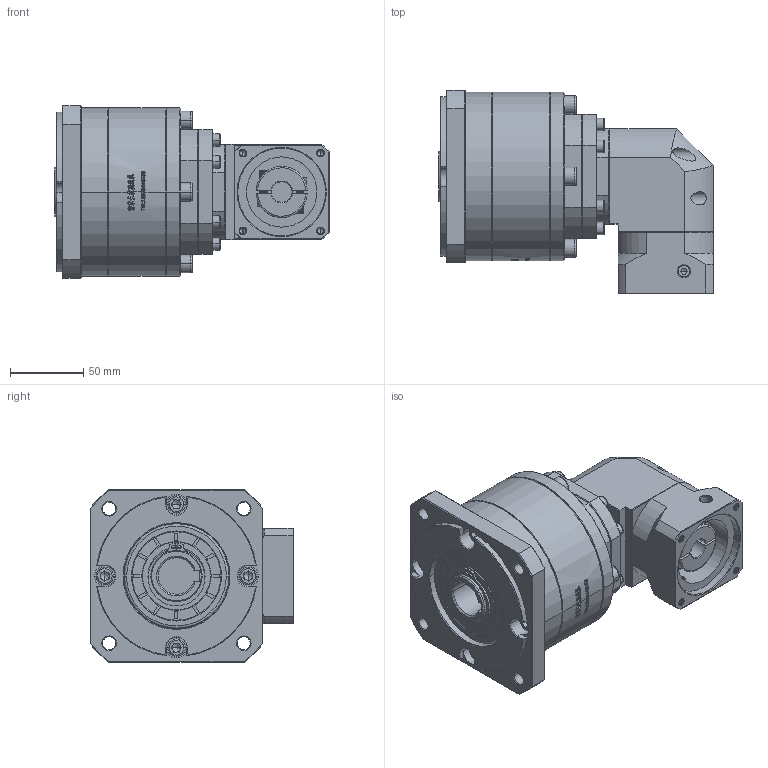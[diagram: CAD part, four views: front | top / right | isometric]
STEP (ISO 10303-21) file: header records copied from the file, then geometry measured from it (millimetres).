
FILE_DESCRIPTION (( 'STEP AP214' ), '1' );
FILE_NAME ('ZFR120A-K25-L3-14-60-75-M5.step', '2023-03-08T14:56:41', ( '' ), ( 'Microsoft' ), 'SwSTEP 2.0', 'SolidWorks 2016', '' );
FILE_SCHEMA (( 'AUTOMOTIVE_DESIGN' ));
Length unit declared in the file: millimetre
Products named in the file (1): ZFR120A-K25-L3-14-60-75-M5
Bounding box: 187.5 x 139.2 x 118 mm (x, y, z)
Volume: 1437478.7 mm3; surface area: 138194.6 mm2
Topology: 6 solids, 6 shells, 2986 faces, 7903 edges, 5073 vertices
Faces by surface type: plane 1588, bspline 628, cylinder 431, cone 339
Entity records: 156939 total; most frequent: CARTESIAN_POINT 55880, ORIENTED_EDGE 15702, DIRECTION 11624, EDGE_CURVE 7851, VERTEX_POINT 5073, VECTOR 4958, LINE 4958, AXIS2_PLACEMENT_3D 3333
